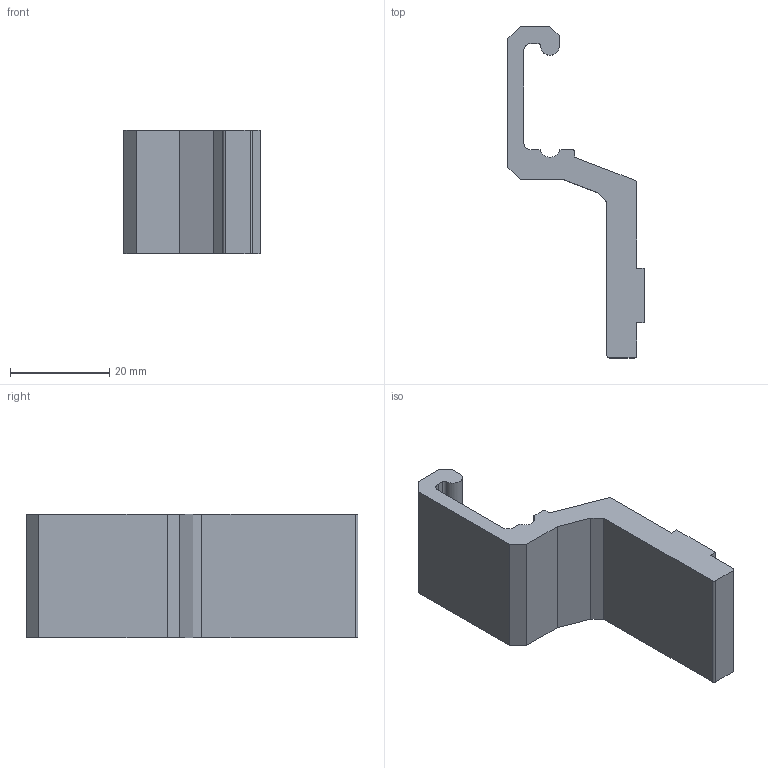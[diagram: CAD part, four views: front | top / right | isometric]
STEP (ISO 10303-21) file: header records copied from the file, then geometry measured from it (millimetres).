
FILE_DESCRIPTION (( 'STEP AP214' ), '1' );
FILE_NAME ('FGRB 23X30.step', '2017-04-05T07:37:45', ( '' ), ( '' ), 'SwSTEP 2.0', 'SolidWorks 2015', '' );
FILE_SCHEMA (( 'AUTOMOTIVE_DESIGN' ));
Length unit declared in the file: millimetre
Products named in the file (1): FGRB 23X30
Bounding box: 27.5 x 67 x 25 mm (x, y, z)
Volume: 11409.5 mm3; surface area: 5773.6 mm2
Topology: 1 solids, 1 shells, 35 faces, 99 edges, 66 vertices
Faces by surface type: plane 25, cylinder 10
Entity records: 1167 total; most frequent: CARTESIAN_POINT 201, ORIENTED_EDGE 198, DIRECTION 191, EDGE_CURVE 99, LINE 79, VECTOR 79, VERTEX_POINT 66, AXIS2_PLACEMENT_3D 56
